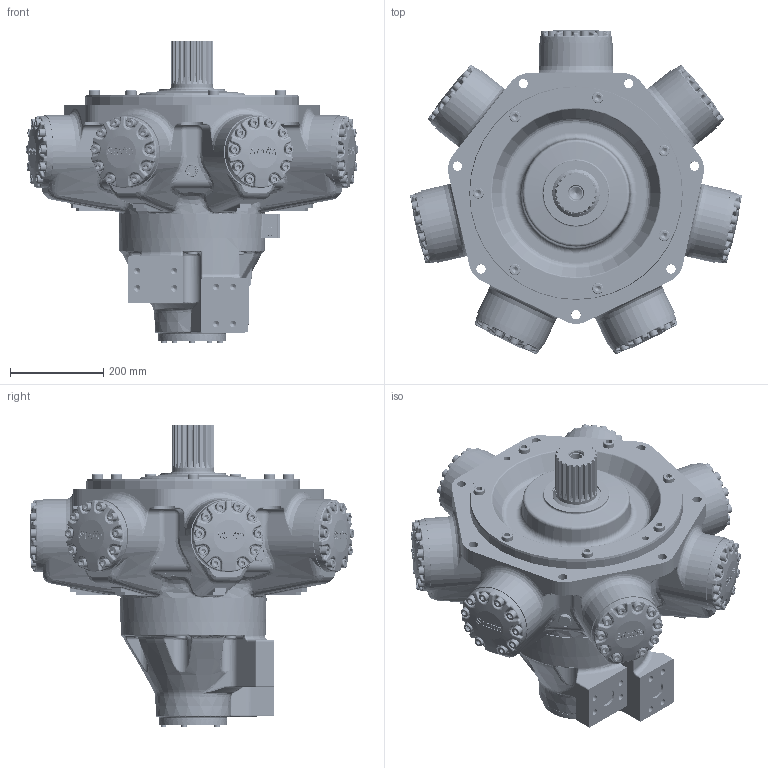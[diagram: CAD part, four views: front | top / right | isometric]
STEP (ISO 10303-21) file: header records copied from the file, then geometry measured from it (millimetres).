
FILE_DESCRIPTION(/* description */ (''),/* implementation_level */ '2;1');
FILE_NAME(/* name */ 'HMC270_Z_FM4_CS.stp',/* time_stamp */ '2025-06-16T14:35:21+01:00',/* author */ ('ccallanga'),/* organization */ (''),/* preprocessor_version */ 'ST-DEVELOPER v20',/* originating_system */ 'Autodesk Inventor 2024',/* authorisation */ '');
FILE_SCHEMA (('AUTOMOTIVE_DESIGN { 1 0 10303 214 3 1 1 }'));
Products named in the file (1): 017752 HMC270 Web Assembly_Simplify_1
Bounding box: 711.04 x 695.71 x 648.79 mm (x, y, z)
Volume: 73335638.5 mm3; surface area: 1692459.7 mm2
Topology: 1 solids, 1 shells, 7003 faces, 17235 edges, 10314 vertices
Faces by surface type: bspline 2703, plane 2050, cylinder 1348, torus 525, cone 199, sphere 178
Full cylindrical faces by diameter (mm): 2.2 x8, 4 x1, 4.134 x4, 5.5 x4, 6.05 x2, 9.4 x3, 11.913 x5, 12 x3, 12.7 x5, 13.843 x8, 14.351 x2, 16.51 x1, 19 x1, 19.05 x70, 20 x7, 20.637 x70, 23.825 x14, 25 x1, 25.4 x14, 26.211 x1, 26.92 x2, 27.94 x1, 30.48 x1, 38.1 x5, 90 x1, 101.575 x1, 106.68 x1, 139.7 x1, 146 x1, 146.05 x1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
Entity records: 304679 total; most frequent: CARTESIAN_POINT 153043, ORIENTED_EDGE 33822, DIRECTION 23642, EDGE_CURVE 16911, VERTEX_POINT 10314, AXIS2_PLACEMENT_3D 8856, EDGE_LOOP 7421, STYLED_ITEM 7004
